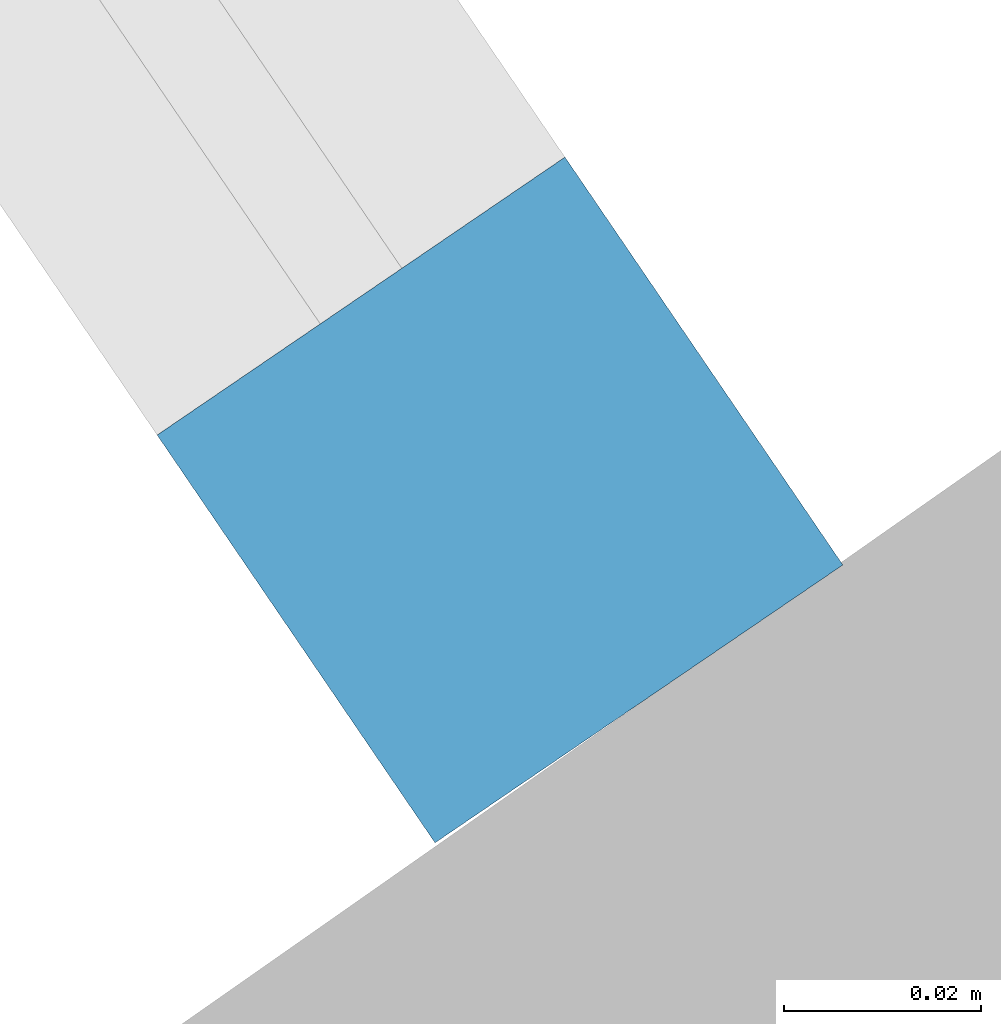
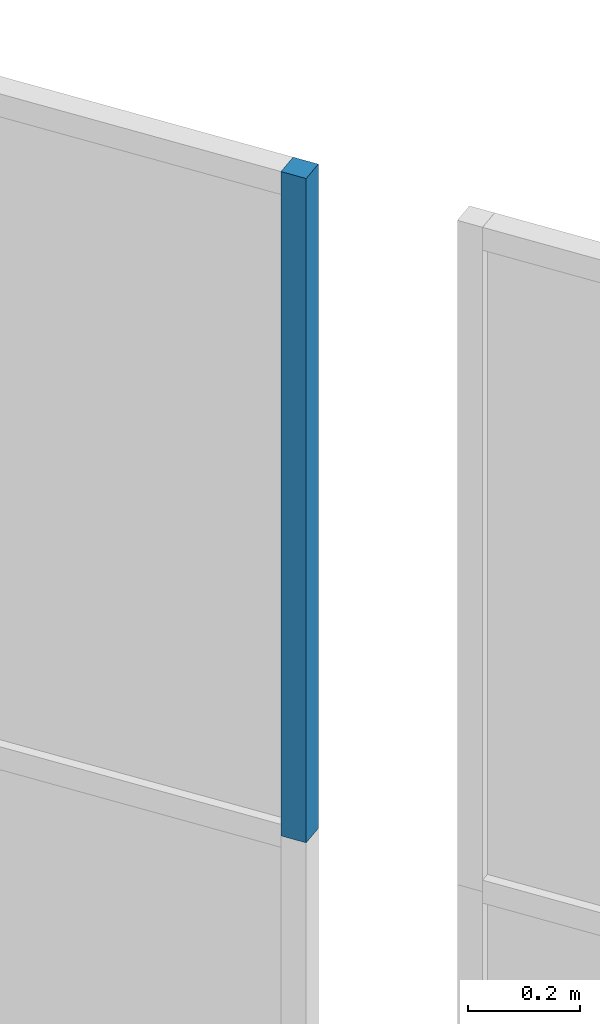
# One storey, part 16 of 157: 1 member, 1 element without a shape of its own.
"""IFC2X3 building model written with IfcOpenShell, lengths in millimetres."""

from ifc_helpers import new_model, entity, si_unit, converted_unit, derived_unit, direction, frame, origin, origin_2d_with_axis, place, context, subcontext, project, spatial, rectangle, extrude, source, transform, mapped, material, type_object, type_shapes, element, aggregate, save


model = new_model("IFC2X3")

# Units and contexts
model_context = context("Model", 3, precision=0.01, world=origin(), true_north=direction((6.123031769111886e-17, 1.0)))
body_context = subcontext(model_context, "Body", "Model", "MODEL_VIEW")
ifc_project = project(units=[si_unit("LENGTHUNIT", "METRE", prefix="MILLI"), si_unit("AREAUNIT", "SQUARE_METRE"), si_unit("VOLUMEUNIT", "CUBIC_METRE"), converted_unit("PLANEANGLEUNIT", "DEGREE", entity("IfcRatioMeasure", 0.017453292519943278), si_unit("PLANEANGLEUNIT", "RADIAN"), dimensions=[0, 0, 0, 0, 0, 0, 0]), si_unit("MASSUNIT", "GRAM", prefix="KILO"), derived_unit("MASSDENSITYUNIT", [(si_unit("MASSUNIT", "GRAM", prefix="KILO"), 1), (si_unit("LENGTHUNIT", "METRE"), -3)]), derived_unit("MOMENTOFINERTIAUNIT", [(si_unit("LENGTHUNIT", "METRE"), 4)]), si_unit("TIMEUNIT", "SECOND"), si_unit("FREQUENCYUNIT", "HERTZ"), si_unit("THERMODYNAMICTEMPERATUREUNIT", "DEGREE_CELSIUS"), derived_unit("THERMALTRANSMITTANCEUNIT", [(si_unit("MASSUNIT", "GRAM", prefix="KILO"), 1), (si_unit("THERMODYNAMICTEMPERATUREUNIT", "KELVIN"), -1), (si_unit("TIMEUNIT", "SECOND"), -3)]), derived_unit("THERMALCONDUCTANCEUNIT", [(si_unit("MASSUNIT", "GRAM", prefix="KILO"), 1), (si_unit("LENGTHUNIT", "METRE"), 1), (si_unit("THERMODYNAMICTEMPERATUREUNIT", "KELVIN"), -1), (si_unit("TIMEUNIT", "SECOND"), -3)]), derived_unit("VOLUMETRICFLOWRATEUNIT", [(si_unit("LENGTHUNIT", "METRE"), 3), (si_unit("TIMEUNIT", "SECOND"), -1)]), derived_unit("MASSFLOWRATEUNIT", [(si_unit("MASSUNIT", "GRAM", prefix="KILO"), 1), (si_unit("TIMEUNIT", "SECOND"), -1)]), derived_unit("ROTATIONALFREQUENCYUNIT", [(si_unit("TIMEUNIT", "SECOND"), -1)]), si_unit("ELECTRICCURRENTUNIT", "AMPERE"), si_unit("ELECTRICVOLTAGEUNIT", "VOLT"), si_unit("POWERUNIT", "WATT"), converted_unit("FORCEUNIT", "KIP", entity("IfcRatioMeasure", 2.088543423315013e-05), si_unit("FORCEUNIT", "NEWTON"), dimensions=[1, 1, -2, 0, 0, 0, 0]), si_unit("ILLUMINANCEUNIT", "LUX"), si_unit("LUMINOUSFLUXUNIT", "LUMEN"), si_unit("LUMINOUSINTENSITYUNIT", "CANDELA"), derived_unit("USERDEFINED", [(si_unit("MASSUNIT", "GRAM", prefix="KILO"), -1), (si_unit("LENGTHUNIT", "METRE"), -2), (si_unit("TIMEUNIT", "SECOND"), 3), (si_unit("LUMINOUSFLUXUNIT", "LUMEN"), 1)]), derived_unit("USERDEFINED", [(si_unit("MASSUNIT", "GRAM", prefix="KILO"), 1), (si_unit("LENGTHUNIT", "METRE"), 3), (si_unit("TIMEUNIT", "SECOND"), -3), (si_unit("ELECTRICCURRENTUNIT", "AMPERE"), -2)]), derived_unit("USERDEFINED", [(si_unit("LENGTHUNIT", "METRE"), 2), (si_unit("TIMEUNIT", "SECOND"), -2)]), derived_unit("SOUNDPOWERUNIT", [(si_unit("MASSUNIT", "GRAM", prefix="KILO"), 1), (si_unit("LENGTHUNIT", "METRE"), 2), (si_unit("TIMEUNIT", "SECOND"), -3)]), derived_unit("SOUNDPRESSUREUNIT", [(si_unit("MASSUNIT", "GRAM", prefix="KILO"), 1), (si_unit("LENGTHUNIT", "METRE"), -1), (si_unit("TIMEUNIT", "SECOND"), -2)]), derived_unit("LINEARVELOCITYUNIT", [(si_unit("LENGTHUNIT", "METRE"), 1), (si_unit("TIMEUNIT", "SECOND"), -1)]), si_unit("PRESSUREUNIT", "PASCAL"), derived_unit("USERDEFINED", [(si_unit("LENGTHUNIT", "METRE"), -2), (si_unit("MASSUNIT", "GRAM", prefix="KILO"), 1), (si_unit("TIMEUNIT", "SECOND"), -2)]), derived_unit("LINEARFORCEUNIT", [(si_unit("MASSUNIT", "GRAM", prefix="KILO"), 1), (si_unit("LENGTHUNIT", "METRE"), 1), (si_unit("TIMEUNIT", "SECOND"), -2), (si_unit("LENGTHUNIT", "METRE"), -1)]), derived_unit("PLANARFORCEUNIT", [(si_unit("MASSUNIT", "GRAM", prefix="KILO"), 1), (si_unit("LENGTHUNIT", "METRE"), 1), (si_unit("TIMEUNIT", "SECOND"), -2), (si_unit("LENGTHUNIT", "METRE"), -2)]), derived_unit("SPECIFICHEATCAPACITYUNIT", [(si_unit("LENGTHUNIT", "METRE"), 2), (si_unit("TIMEUNIT", "SECOND"), -2), (si_unit("THERMODYNAMICTEMPERATUREUNIT", "KELVIN"), -1)]), derived_unit("VAPORPERMEABILITYUNIT", [(si_unit("TIMEUNIT", "SECOND"), 1), (si_unit("LENGTHUNIT", "METRE"), -1)]), derived_unit("DYNAMICVISCOSITYUNIT", [(si_unit("MASSUNIT", "GRAM", prefix="KILO"), 1), (si_unit("LENGTHUNIT", "METRE"), -1), (si_unit("TIMEUNIT", "SECOND"), -1)]), derived_unit("THERMALEXPANSIONCOEFFICIENTUNIT", [(si_unit("THERMODYNAMICTEMPERATUREUNIT", "KELVIN"), -1)])], contexts=[model_context])

# Site, building, storey
site_placement = place(None, frame((0.0, 0.0, 0.0), z_axis=(0.0, 0.0, 1.0), x_axis=(0.8191520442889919, 0.5735764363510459, 0.0)))
site = spatial("IfcSite", under=ifc_project, at=site_placement, Name="Default", CompositionType="ELEMENT")
building_placement = place(site_placement, origin())
building = spatial("IfcBuilding", under=site, at=building_placement, CompositionType="ELEMENT")
storey_placement = place(building_placement, origin())
storey = spatial("IfcBuildingStorey", under=building, at=storey_placement, Name="1.EG +0.00", CompositionType="ELEMENT", Elevation=-4.331468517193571e-12)

# Curtain wall, member
curtain_wall_type = type_object("IfcCurtainWallType", Name="Curtain Wall:Curtain_Wall_CJC", PredefinedType="NOTDEFINED")
curtain_wall_placement = place(storey_placement, origin())
curtain_wall = element("IfcCurtainWall", 1, at=curtain_wall_placement, inside=storey, type_object=curtain_wall_type, Name="Curtain Wall:Curtain_Wall_CJC", ObjectType="Curtain Wall:Curtain_Wall_CJC")
ifc_material = material(Name="Aluminium")
member_type = type_object("IfcMemberType", Name="Rectangular Mullion:5x5", PredefinedType="MULLION", material=ifc_material)
shared_shape = source(origin(), body_context, "Body", "SweptSolid", [
    extrude(rectangle(XDim=50.0, YDim=50.0, at=origin_2d_with_axis()), frame((-25.0, 0.0, -1450.0), z_axis=(0.0, 0.0, 1.0), x_axis=(0.0, -1.0, 0.0)), (0.0, 0.0, 1.0), 1450.0000000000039),
])
type_shapes(member_type, [shared_shape])
member_placement = place(curtain_wall_placement, frame((-223070.5851543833, 113945.23194626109, 21850.0), z_axis=(0.0, 0.0, 1.0), x_axis=(-0.01272958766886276, -0.999918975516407, 0.0)))
member = element("IfcMember", 2, at=member_placement, type_object=member_type, material=ifc_material, Name="Rectangular Mullion:5x5", ObjectType="Rectangular Mullion:5x5", context=body_context, shape_type="MappedRepresentation", body=[
    mapped(shared_shape, transform((0.0, 0.0, 0.0), scale=1.0)),
])
aggregate(curtain_wall, [member])

save(model, "model.ifc")
